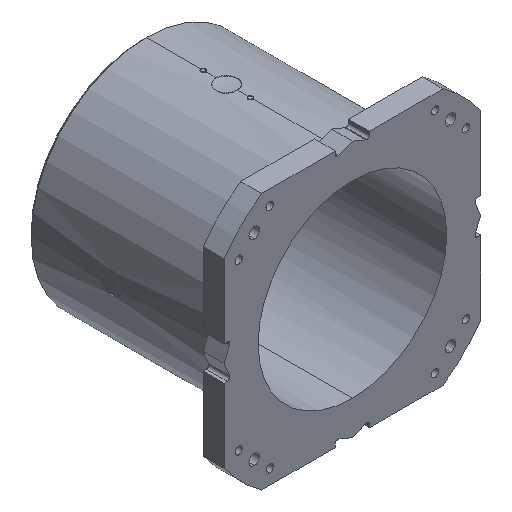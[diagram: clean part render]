
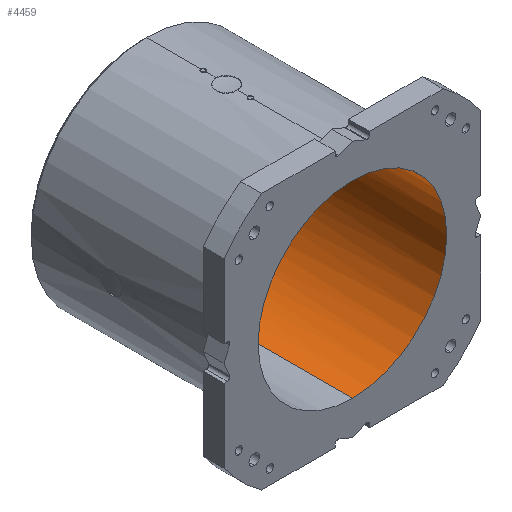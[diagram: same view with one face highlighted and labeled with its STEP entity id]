
A CAD part, isometric view. The second image highlights one B-rep face of the part: STEP entity #4459.
In plain terms, the highlighted cylindrical face has radius 180 mm (diameter 360 mm), a partial arc.
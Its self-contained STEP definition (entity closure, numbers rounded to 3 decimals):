
#9 = CIRCLE ( 'NONE', #6223, 180. ) ;
#45 = CARTESIAN_POINT ( 'NONE',  ( 0., 363., 0. ) ) ;
#79 = CARTESIAN_POINT ( 'NONE',  ( 0., 0., 0. ) ) ;
#479 = LINE ( 'NONE', #5561, #8679 ) ;
#502 = EDGE_CURVE ( 'NONE', #3709, #7383, #8963, .T. ) ;
#525 = CARTESIAN_POINT ( 'NONE',  ( 131.304, 363., -123.123 ) ) ;
#682 = EDGE_CURVE ( 'NONE', #6565, #4547, #3335, .T. ) ;
#750 = CARTESIAN_POINT ( 'NONE',  ( 0., 363., 0. ) ) ;
#910 = CIRCLE ( 'NONE', #8222, 180. ) ;
#1055 = CARTESIAN_POINT ( 'NONE',  ( 0., 363., 0. ) ) ;
#1057 = CIRCLE ( 'NONE', #6364, 180. ) ;
#1064 = EDGE_CURVE ( 'NONE', #2893, #4547, #9, .T. ) ;
#1089 = EDGE_CURVE ( 'NONE', #5360, #2893, #479, .T. ) ;
#1433 = DIRECTION ( 'NONE',  ( 0., 0., -1. ) ) ;
#1822 = DIRECTION ( 'NONE',  ( 0., -1., 0. ) ) ;
#1914 = CARTESIAN_POINT ( 'NONE',  ( 0., 0., 0. ) ) ;
#2037 = DIRECTION ( 'NONE',  ( 0., -1., 0. ) ) ;
#2530 = CARTESIAN_POINT ( 'NONE',  ( 0., 363., 0. ) ) ;
#2616 = ORIENTED_EDGE ( 'NONE', *, *, #4718, .F. ) ;
#2803 = ORIENTED_EDGE ( 'NONE', *, *, #502, .F. ) ;
#2893 = VERTEX_POINT ( 'NONE', #7513 ) ;
#3047 = ORIENTED_EDGE ( 'NONE', *, *, #1064, .T. ) ;
#3065 = EDGE_CURVE ( 'NONE', #6760, #6199, #1057, .T. ) ;
#3318 = VECTOR ( 'NONE', #9162, 1000. ) ;
#3324 = DIRECTION ( 'NONE',  ( 0., -1., 0. ) ) ;
#3335 = LINE ( 'NONE', #6246, #3318 ) ;
#3706 = CARTESIAN_POINT ( 'NONE',  ( 123.123, 363., 131.304 ) ) ;
#3709 = VERTEX_POINT ( 'NONE', #3975 ) ;
#3975 = CARTESIAN_POINT ( 'NONE',  ( 123.123, 363., -131.304 ) ) ;
#4080 = EDGE_CURVE ( 'NONE', #6199, #6565, #7399, .T. ) ;
#4453 = DIRECTION ( 'NONE',  ( 0., -1., 0. ) ) ;
#4459 = ADVANCED_FACE ( 'NONE', ( #7218 ), #6592, .F. ) ;
#4499 = AXIS2_PLACEMENT_3D ( 'NONE', #750, #5026, #1433 ) ;
#4547 = VERTEX_POINT ( 'NONE', #6399 ) ;
#4718 = EDGE_CURVE ( 'NONE', #5360, #3709, #5577, .T. ) ;
#4753 = CARTESIAN_POINT ( 'NONE',  ( 0., 363., 0. ) ) ;
#5026 = DIRECTION ( 'NONE',  ( 0., -1., 0. ) ) ;
#5360 = VERTEX_POINT ( 'NONE', #8193 ) ;
#5476 = DIRECTION ( 'NONE',  ( 0., 0., -1. ) ) ;
#5518 = DIRECTION ( 'NONE',  ( 0., 0., -1. ) ) ;
#5561 = CARTESIAN_POINT ( 'NONE',  ( 0., 0., -180. ) ) ;
#5577 = CIRCLE ( 'NONE', #8640, 180. ) ;
#5578 = ORIENTED_EDGE ( 'NONE', *, *, #1089, .T. ) ;
#5934 = DIRECTION ( 'NONE',  ( 0., 0., -1. ) ) ;
#6016 = ORIENTED_EDGE ( 'NONE', *, *, #682, .F. ) ;
#6199 = VERTEX_POINT ( 'NONE', #3706 ) ;
#6223 = AXIS2_PLACEMENT_3D ( 'NONE', #1914, #9153, #7756 ) ;
#6246 = CARTESIAN_POINT ( 'NONE',  ( 0., 0., 180. ) ) ;
#6364 = AXIS2_PLACEMENT_3D ( 'NONE', #1055, #3324, #5476 ) ;
#6399 = CARTESIAN_POINT ( 'NONE',  ( 0., 0., 180. ) ) ;
#6497 = DIRECTION ( 'NONE',  ( 0., 0., -1. ) ) ;
#6565 = VERTEX_POINT ( 'NONE', #9079 ) ;
#6592 = CYLINDRICAL_SURFACE ( 'NONE', #9086, 180. ) ;
#6759 = DIRECTION ( 'NONE',  ( 0., 0., -1. ) ) ;
#6760 = VERTEX_POINT ( 'NONE', #7779 ) ;
#6838 = ORIENTED_EDGE ( 'NONE', *, *, #4080, .F. ) ;
#6970 = EDGE_LOOP ( 'NONE', ( #6016, #6838, #8819, #8751, #2803, #2616, #5578, #3047 ) ) ;
#7218 = FACE_OUTER_BOUND ( 'NONE', #6970, .T. ) ;
#7383 = VERTEX_POINT ( 'NONE', #525 ) ;
#7399 = CIRCLE ( 'NONE', #4499, 180. ) ;
#7513 = CARTESIAN_POINT ( 'NONE',  ( 0., 0., -180. ) ) ;
#7756 = DIRECTION ( 'NONE',  ( 0., 0., -1. ) ) ;
#7779 = CARTESIAN_POINT ( 'NONE',  ( 131.304, 363., 123.123 ) ) ;
#7937 = DIRECTION ( 'NONE',  ( 0., -1., 0. ) ) ;
#8193 = CARTESIAN_POINT ( 'NONE',  ( 0., 363., -180. ) ) ;
#8222 = AXIS2_PLACEMENT_3D ( 'NONE', #2530, #1822, #6759 ) ;
#8352 = AXIS2_PLACEMENT_3D ( 'NONE', #45, #4453, #5934 ) ;
#8388 = DIRECTION ( 'NONE',  ( 0., -1., 0. ) ) ;
#8640 = AXIS2_PLACEMENT_3D ( 'NONE', #4753, #7937, #5518 ) ;
#8679 = VECTOR ( 'NONE', #8388, 1000. ) ;
#8751 = ORIENTED_EDGE ( 'NONE', *, *, #9400, .F. ) ;
#8819 = ORIENTED_EDGE ( 'NONE', *, *, #3065, .F. ) ;
#8963 = CIRCLE ( 'NONE', #8352, 180. ) ;
#9079 = CARTESIAN_POINT ( 'NONE',  ( 0., 363., 180. ) ) ;
#9086 = AXIS2_PLACEMENT_3D ( 'NONE', #79, #2037, #6497 ) ;
#9153 = DIRECTION ( 'NONE',  ( 0., -1., 0. ) ) ;
#9162 = DIRECTION ( 'NONE',  ( 0., -1., 0. ) ) ;
#9400 = EDGE_CURVE ( 'NONE', #7383, #6760, #910, .T. ) ;
